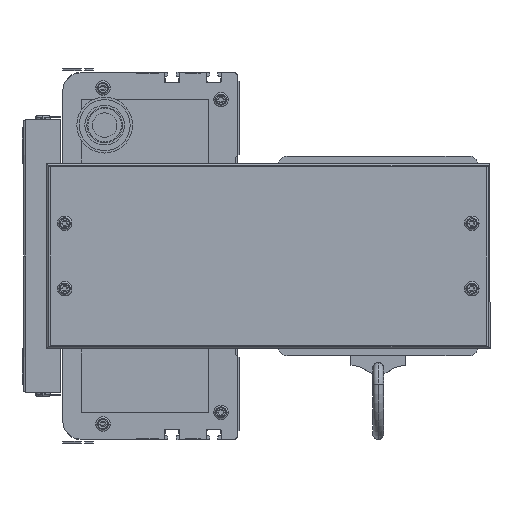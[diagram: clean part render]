
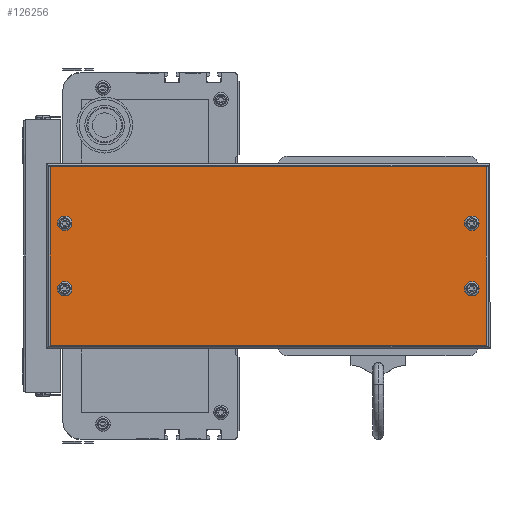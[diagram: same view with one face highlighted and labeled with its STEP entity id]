
A CAD part, left-side view. The second image highlights one B-rep face of the part: STEP entity #126256.
In plain terms, the highlighted planar face has unit normal (-1, 0, 0) as drawn and (1, 0, 0) by its records, which use the part's own axes.
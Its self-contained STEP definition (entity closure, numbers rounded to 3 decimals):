
#115361 = CARTESIAN_POINT ( 'NONE',  ( 50., 10., -33. ) ) ;
#115474 = DIRECTION ( 'NONE',  ( 0., 0., -1. ) ) ;
#115476 = DIRECTION ( 'NONE',  ( 1., 0., 0. ) ) ;
#115504 = AXIS2_PLACEMENT_3D ( 'NONE', #115361, #115476, #115474 ) ;
#115510 = CIRCLE ( 'NONE', #115504, 2.5 ) ;
#118436 = DIRECTION ( 'NONE',  ( 0., 0., -1. ) ) ;
#118438 = DIRECTION ( 'NONE',  ( 1., 0., 0. ) ) ;
#118440 = AXIS2_PLACEMENT_3D ( 'NONE', #118472, #118438, #118436 ) ;
#118461 = CIRCLE ( 'NONE', #118440, 2.5 ) ;
#118472 = CARTESIAN_POINT ( 'NONE',  ( 50., 10., -69. ) ) ;
#118552 = CARTESIAN_POINT ( 'NONE',  ( 50., 10., -35.5 ) ) ;
#119635 = CARTESIAN_POINT ( 'NONE',  ( 50., 234., -69. ) ) ;
#119678 = CARTESIAN_POINT ( 'NONE',  ( 50., 234., -66.5 ) ) ;
#119725 = DIRECTION ( 'NONE',  ( 0., 0., -1. ) ) ;
#119726 = DIRECTION ( 'NONE',  ( 1., 0., 0. ) ) ;
#119746 = CARTESIAN_POINT ( 'NONE',  ( 50., 234., -71.5 ) ) ;
#119748 = CIRCLE ( 'NONE', #119758, 2.5 ) ;
#119758 = AXIS2_PLACEMENT_3D ( 'NONE', #119635, #119726, #119725 ) ;
#120246 = FACE_OUTER_BOUND ( 'NONE', #126655, .T. ) ;
#120250 = LINE ( 'NONE', #120523, #120521 ) ;
#120277 = DIRECTION ( 'NONE',  ( 0., 1., 0. ) ) ;
#120279 = VECTOR ( 'NONE', #120277, 1000. ) ;
#120281 = CARTESIAN_POINT ( 'NONE',  ( 50., 244., -100. ) ) ;
#120300 = LINE ( 'NONE', #120281, #120279 ) ;
#120327 = CARTESIAN_POINT ( 'NONE',  ( 50., 2., -100. ) ) ;
#120337 = DIRECTION ( 'NONE',  ( 0., 0., -1. ) ) ;
#120338 = VECTOR ( 'NONE', #120337, 1000. ) ;
#120352 = DIRECTION ( 'NONE',  ( 0., 0., 1. ) ) ;
#120354 = DIRECTION ( 'NONE',  ( -1., 0., 0. ) ) ;
#120356 = CARTESIAN_POINT ( 'NONE',  ( 50., 244., 0. ) ) ;
#120359 = CARTESIAN_POINT ( 'NONE',  ( 50., 2., 0. ) ) ;
#120360 = LINE ( 'NONE', #120359, #120338 ) ;
#120365 = PLANE ( 'NONE',  #120394 ) ;
#120380 = FACE_BOUND ( 'NONE', #126464, .T. ) ;
#120383 = FACE_BOUND ( 'NONE', #126601, .T. ) ;
#120385 = FACE_BOUND ( 'NONE', #126607, .T. ) ;
#120387 = CARTESIAN_POINT ( 'NONE',  ( 50., 242., -100. ) ) ;
#120394 = AXIS2_PLACEMENT_3D ( 'NONE', #120356, #120354, #120352 ) ;
#120414 = CARTESIAN_POINT ( 'NONE',  ( 50., 234., -30.5 ) ) ;
#120417 = FACE_BOUND ( 'NONE', #126698, .T. ) ;
#120520 = DIRECTION ( 'NONE',  ( 0., -1., 0. ) ) ;
#120521 = VECTOR ( 'NONE', #120520, 1000. ) ;
#120523 = CARTESIAN_POINT ( 'NONE',  ( 50., 244., -2. ) ) ;
#120562 = CARTESIAN_POINT ( 'NONE',  ( 50., 10., -71.5 ) ) ;
#120596 = DIRECTION ( 'NONE',  ( 0., 0., -1. ) ) ;
#120598 = DIRECTION ( 'NONE',  ( 1., 0., 0. ) ) ;
#120600 = CARTESIAN_POINT ( 'NONE',  ( 50., 234., -33. ) ) ;
#120601 = AXIS2_PLACEMENT_3D ( 'NONE', #120600, #120598, #120596 ) ;
#120604 = CIRCLE ( 'NONE', #120601, 2.5 ) ;
#120755 = CARTESIAN_POINT ( 'NONE',  ( 50., 10., -66.5 ) ) ;
#120797 = CARTESIAN_POINT ( 'NONE',  ( 50., 10., -30.5 ) ) ;
#121056 = CIRCLE ( 'NONE', #121188, 2.5 ) ;
#121154 = DIRECTION ( 'NONE',  ( 0., 0., -1. ) ) ;
#121157 = DIRECTION ( 'NONE',  ( 1., 0., 0. ) ) ;
#121158 = CARTESIAN_POINT ( 'NONE',  ( 50., 10., -69. ) ) ;
#121170 = CARTESIAN_POINT ( 'NONE',  ( 50., 2., -2. ) ) ;
#121188 = AXIS2_PLACEMENT_3D ( 'NONE', #121158, #121157, #121154 ) ;
#121588 = DIRECTION ( 'NONE',  ( 0., 0., -1. ) ) ;
#121591 = DIRECTION ( 'NONE',  ( 1., 0., 0. ) ) ;
#121593 = CARTESIAN_POINT ( 'NONE',  ( 50., 10., -33. ) ) ;
#121608 = AXIS2_PLACEMENT_3D ( 'NONE', #121593, #121591, #121588 ) ;
#121629 = CIRCLE ( 'NONE', #121608, 2.5 ) ;
#121654 = CARTESIAN_POINT ( 'NONE',  ( 50., 242., -2. ) ) ;
#121657 = AXIS2_PLACEMENT_3D ( 'NONE', #121836, #121754, #121751 ) ;
#121674 = CARTESIAN_POINT ( 'NONE',  ( 50., 234., -35.5 ) ) ;
#121738 = DIRECTION ( 'NONE',  ( 0., 0., 1. ) ) ;
#121739 = VECTOR ( 'NONE', #121738, 1000. ) ;
#121741 = CARTESIAN_POINT ( 'NONE',  ( 50., 242., 0. ) ) ;
#121751 = DIRECTION ( 'NONE',  ( 0., 0., -1. ) ) ;
#121754 = DIRECTION ( 'NONE',  ( 1., 0., 0. ) ) ;
#121777 = LINE ( 'NONE', #121741, #121739 ) ;
#121786 = CIRCLE ( 'NONE', #121657, 2.5 ) ;
#121836 = CARTESIAN_POINT ( 'NONE',  ( 50., 234., -33. ) ) ;
#121843 = CIRCLE ( 'NONE', #122049, 2.5 ) ;
#121986 = DIRECTION ( 'NONE',  ( 0., 0., -1. ) ) ;
#121988 = DIRECTION ( 'NONE',  ( 1., 0., 0. ) ) ;
#122021 = CARTESIAN_POINT ( 'NONE',  ( 50., 234., -69. ) ) ;
#122049 = AXIS2_PLACEMENT_3D ( 'NONE', #122021, #121988, #121986 ) ;
#125583 = EDGE_CURVE ( 'NONE', #126373, #125936, #115510, .T. ) ;
#125898 = EDGE_CURVE ( 'NONE', #126380, #126342, #118461, .T. ) ;
#125936 = VERTEX_POINT ( 'NONE', #118552 ) ;
#126059 = VERTEX_POINT ( 'NONE', #119678 ) ;
#126085 = VERTEX_POINT ( 'NONE', #119746 ) ;
#126087 = EDGE_CURVE ( 'NONE', #126059, #126085, #119748, .T. ) ;
#126205 = ORIENTED_EDGE ( 'NONE', *, *, #126210, .T. ) ;
#126207 = ORIENTED_EDGE ( 'NONE', *, *, #126264, .T. ) ;
#126210 = EDGE_CURVE ( 'NONE', #126219, #126259, #120300, .T. ) ;
#126219 = VERTEX_POINT ( 'NONE', #120327 ) ;
#126234 = VERTEX_POINT ( 'NONE', #120414 ) ;
#126256 = ADVANCED_FACE ( 'NONE', ( #120246, #120383, #120380, #120385, #120417 ), #120365, .F. ) ;
#126259 = VERTEX_POINT ( 'NONE', #120387 ) ;
#126262 = ORIENTED_EDGE ( 'NONE', *, *, #126266, .T. ) ;
#126264 = EDGE_CURVE ( 'NONE', #126462, #126219, #120360, .T. ) ;
#126266 = EDGE_CURVE ( 'NONE', #126659, #126462, #120250, .T. ) ;
#126286 = ORIENTED_EDGE ( 'NONE', *, *, #126087, .F. ) ;
#126287 = EDGE_CURVE ( 'NONE', #126675, #126234, #120604, .T. ) ;
#126342 = VERTEX_POINT ( 'NONE', #120562 ) ;
#126373 = VERTEX_POINT ( 'NONE', #120797 ) ;
#126380 = VERTEX_POINT ( 'NONE', #120755 ) ;
#126457 = EDGE_CURVE ( 'NONE', #126342, #126380, #121056, .T. ) ;
#126460 = ORIENTED_EDGE ( 'NONE', *, *, #126611, .F. ) ;
#126462 = VERTEX_POINT ( 'NONE', #121170 ) ;
#126464 = EDGE_LOOP ( 'NONE', ( #126460, #126685 ) ) ;
#126468 = ORIENTED_EDGE ( 'NONE', *, *, #126682, .F. ) ;
#126601 = EDGE_LOOP ( 'NONE', ( #126603, #126609 ) ) ;
#126603 = ORIENTED_EDGE ( 'NONE', *, *, #126457, .F. ) ;
#126605 = ORIENTED_EDGE ( 'NONE', *, *, #126701, .F. ) ;
#126607 = EDGE_LOOP ( 'NONE', ( #126605, #126286 ) ) ;
#126609 = ORIENTED_EDGE ( 'NONE', *, *, #125898, .F. ) ;
#126611 = EDGE_CURVE ( 'NONE', #125936, #126373, #121629, .T. ) ;
#126655 = EDGE_LOOP ( 'NONE', ( #126262, #126207, #126205, #126686 ) ) ;
#126659 = VERTEX_POINT ( 'NONE', #121654 ) ;
#126675 = VERTEX_POINT ( 'NONE', #121674 ) ;
#126682 = EDGE_CURVE ( 'NONE', #126234, #126675, #121786, .T. ) ;
#126683 = EDGE_CURVE ( 'NONE', #126259, #126659, #121777, .T. ) ;
#126685 = ORIENTED_EDGE ( 'NONE', *, *, #125583, .F. ) ;
#126686 = ORIENTED_EDGE ( 'NONE', *, *, #126683, .T. ) ;
#126698 = EDGE_LOOP ( 'NONE', ( #126699, #126468 ) ) ;
#126699 = ORIENTED_EDGE ( 'NONE', *, *, #126287, .F. ) ;
#126701 = EDGE_CURVE ( 'NONE', #126085, #126059, #121843, .T. ) ;
